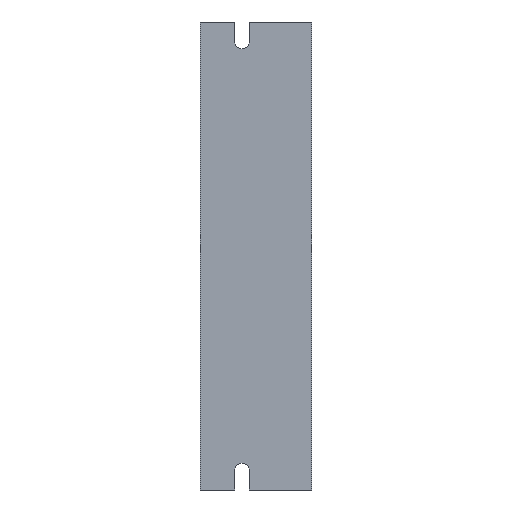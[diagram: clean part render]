
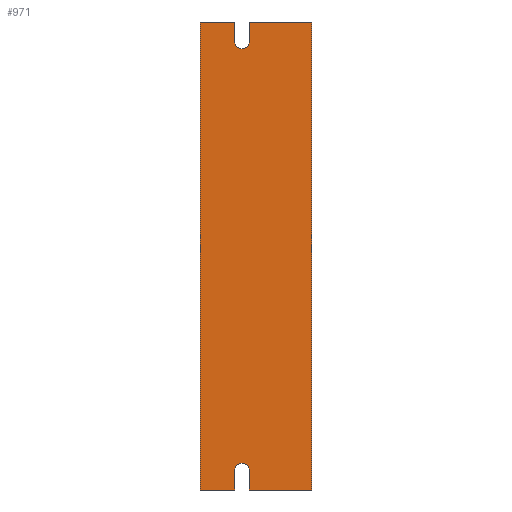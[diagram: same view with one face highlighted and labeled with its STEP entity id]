
A CAD part, left-side view. The second image highlights one B-rep face of the part: STEP entity #971.
In plain terms, the highlighted planar face has unit normal (-1, 0, 0).
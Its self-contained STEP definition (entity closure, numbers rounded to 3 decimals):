
#13=DIRECTION('',(0.,-1.,0.));
#14=VECTOR('',#13,12.4);
#15=CARTESIAN_POINT('',(0.,43.,-83.75));
#16=LINE('',#15,#14);
#41=DIRECTION('',(0.,-1.,0.));
#42=VECTOR('',#41,22.4);
#43=CARTESIAN_POINT('',(0.,25.4,-83.75));
#44=LINE('',#43,#42);
#57=DIRECTION('',(0.,0.,1.));
#58=VECTOR('',#57,167.5);
#59=CARTESIAN_POINT('',(0.,3.,-83.75));
#60=LINE('',#59,#58);
#61=DIRECTION('',(0.,0.,1.));
#62=VECTOR('',#61,7.);
#63=CARTESIAN_POINT('',(0.,25.4,-83.75));
#64=LINE('',#63,#62);
#65=CARTESIAN_POINT('',(0.,28.,-76.75));
#66=DIRECTION('',(-1.,0.,0.));
#67=DIRECTION('',(0.,-1.,0.));
#68=AXIS2_PLACEMENT_3D('',#65,#66,#67);
#70=DIRECTION('',(0.,0.,1.));
#71=VECTOR('',#70,7.);
#72=CARTESIAN_POINT('',(0.,30.6,-83.75));
#73=LINE('',#72,#71);
#74=DIRECTION('',(0.,0.,1.));
#75=VECTOR('',#74,167.5);
#76=CARTESIAN_POINT('',(0.,43.,-83.75));
#77=LINE('',#76,#75);
#78=DIRECTION('',(0.,0.,-1.));
#79=VECTOR('',#78,7.);
#80=CARTESIAN_POINT('',(0.,30.6,83.75));
#81=LINE('',#80,#79);
#82=CARTESIAN_POINT('',(0.,28.,76.75));
#83=DIRECTION('',(1.,0.,0.));
#84=DIRECTION('',(0.,-1.,0.));
#85=AXIS2_PLACEMENT_3D('',#82,#83,#84);
#87=DIRECTION('',(0.,0.,-1.));
#88=VECTOR('',#87,7.);
#89=CARTESIAN_POINT('',(0.,25.4,83.75));
#90=LINE('',#89,#88);
#527=DIRECTION('',(0.,-1.,0.));
#528=VECTOR('',#527,12.4);
#529=CARTESIAN_POINT('',(0.,43.,83.75));
#530=LINE('',#529,#528);
#563=DIRECTION('',(0.,-1.,0.));
#564=VECTOR('',#563,22.4);
#565=CARTESIAN_POINT('',(0.,25.4,83.75));
#566=LINE('',#565,#564);
#656=CARTESIAN_POINT('',(0.,43.,-83.75));
#658=VERTEX_POINT('',#656);
#664=CARTESIAN_POINT('',(0.,43.,83.75));
#666=VERTEX_POINT('',#664);
#667=CARTESIAN_POINT('',(0.,25.4,83.75));
#669=VERTEX_POINT('',#667);
#671=CARTESIAN_POINT('',(0.,30.6,83.75));
#673=VERTEX_POINT('',#671);
#679=CARTESIAN_POINT('',(0.,25.4,76.75));
#680=VERTEX_POINT('',#679);
#681=CARTESIAN_POINT('',(0.,30.6,76.75));
#682=VERTEX_POINT('',#681);
#684=CARTESIAN_POINT('',(0.,25.4,-76.75));
#686=VERTEX_POINT('',#684);
#688=CARTESIAN_POINT('',(0.,30.6,-76.75));
#690=VERTEX_POINT('',#688);
#691=CARTESIAN_POINT('',(0.,25.4,-83.75));
#693=VERTEX_POINT('',#691);
#695=CARTESIAN_POINT('',(0.,30.6,-83.75));
#697=VERTEX_POINT('',#695);
#747=CARTESIAN_POINT('',(0.,3.,-83.75));
#748=CARTESIAN_POINT('',(0.,3.,83.75));
#749=VERTEX_POINT('',#747);
#750=VERTEX_POINT('',#748);
#945=CARTESIAN_POINT('',(0.,43.,-83.75));
#946=DIRECTION('',(-1.,0.,0.));
#947=DIRECTION('',(0.,-1.,0.));
#948=AXIS2_PLACEMENT_3D('',#945,#946,#947);
#949=PLANE('',#948);
#951=ORIENTED_EDGE('',*,*,#950,.F.);
#952=ORIENTED_EDGE('',*,*,#892,.F.);
#953=ORIENTED_EDGE('',*,*,#937,.T.);
#954=ORIENTED_EDGE('',*,*,#926,.T.);
#955=ORIENTED_EDGE('',*,*,#911,.F.);
#956=ORIENTED_EDGE('',*,*,#858,.F.);
#958=ORIENTED_EDGE('',*,*,#957,.T.);
#960=ORIENTED_EDGE('',*,*,#959,.T.);
#962=ORIENTED_EDGE('',*,*,#961,.T.);
#964=ORIENTED_EDGE('',*,*,#963,.F.);
#966=ORIENTED_EDGE('',*,*,#965,.F.);
#968=ORIENTED_EDGE('',*,*,#967,.T.);
#969=EDGE_LOOP('',(#951,#952,#953,#954,#955,#956,#958,#960,#962,#964,#966,
#968));
#970=FACE_OUTER_BOUND('',#969,.F.);
#69=CIRCLE('',#68,2.6);
#86=CIRCLE('',#85,2.6);
#858=EDGE_CURVE('',#658,#697,#16,.T.);
#892=EDGE_CURVE('',#693,#749,#44,.T.);
#911=EDGE_CURVE('',#697,#690,#73,.T.);
#926=EDGE_CURVE('',#686,#690,#69,.T.);
#937=EDGE_CURVE('',#693,#686,#64,.T.);
#950=EDGE_CURVE('',#749,#750,#60,.T.);
#957=EDGE_CURVE('',#658,#666,#77,.T.);
#959=EDGE_CURVE('',#666,#673,#530,.T.);
#961=EDGE_CURVE('',#673,#682,#81,.T.);
#963=EDGE_CURVE('',#680,#682,#86,.T.);
#965=EDGE_CURVE('',#669,#680,#90,.T.);
#967=EDGE_CURVE('',#669,#750,#566,.T.);
#971=ADVANCED_FACE('',(#970),#949,.T.);
